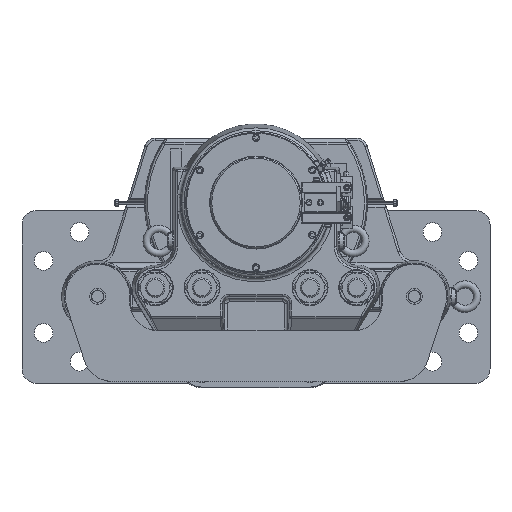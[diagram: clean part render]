
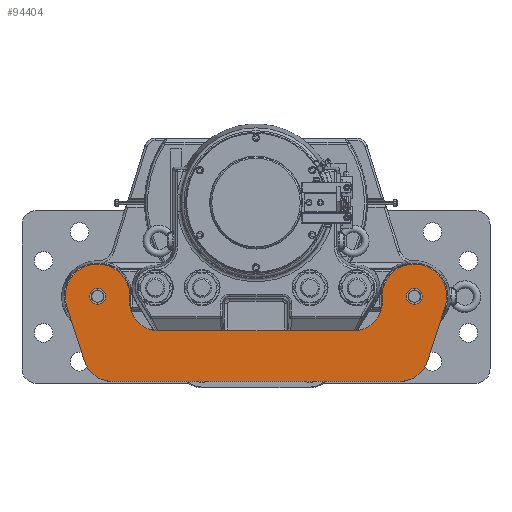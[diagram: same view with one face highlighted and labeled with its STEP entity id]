
A CAD part, top view. The second image highlights one B-rep face of the part: STEP entity #94404.
In plain terms, the highlighted planar face has unit normal (0, 0, 1).
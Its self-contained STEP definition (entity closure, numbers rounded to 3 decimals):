
#35621=CARTESIAN_POINT('',(-189.623,-128.,375.));
#35622=DIRECTION('',(0.,0.,-1.));
#35623=DIRECTION('',(0.996,0.094,0.));
#35624=AXIS2_PLACEMENT_3D('',#35621,#35622,#35623);
#35629=DIRECTION('',(0.308,0.951,0.));
#35630=VECTOR('',#35629,80.368);
#35631=CARTESIAN_POINT('',(-86.945,-210.322,375.));
#35632=LINE('',#35631,#35630);
#35636=CARTESIAN_POINT('',(-125.,-198.,375.));
#35637=DIRECTION('',(0.,0.,1.));
#35638=DIRECTION('',(0.,-1.,0.));
#35639=AXIS2_PLACEMENT_3D('',#35636,#35637,#35638);
#35644=DIRECTION('',(1.,0.,0.));
#35645=VECTOR('',#35644,400.);
#35646=CARTESIAN_POINT('',(-525.,-238.,375.));
#35647=LINE('',#35646,#35645);
#35651=CARTESIAN_POINT('',(-525.,-198.,375.));
#35652=DIRECTION('',(0.,0.,1.));
#35653=DIRECTION('',(-0.951,-0.308,0.));
#35654=AXIS2_PLACEMENT_3D('',#35651,#35652,#35653);
#35659=DIRECTION('',(0.308,-0.951,0.));
#35660=VECTOR('',#35659,80.368);
#35661=CARTESIAN_POINT('',(-587.812,-133.862,375.));
#35662=LINE('',#35661,#35660);
#35666=DIRECTION('',(-1.,0.,0.));
#35667=VECTOR('',#35666,270.755);
#35668=CARTESIAN_POINT('',(-189.623,-168.,375.));
#35669=LINE('',#35668,#35667);
#35673=CARTESIAN_POINT('',(-105.,-120.,375.));
#35674=DIRECTION('',(0.,0.,1.));
#35675=DIRECTION('',(0.951,-0.308,0.));
#35676=AXIS2_PLACEMENT_3D('',#35673,#35674,#35675);
#35731=CARTESIAN_POINT('',(-545.,-120.,375.));
#35732=DIRECTION('',(0.,0.,1.));
#35733=DIRECTION('',(0.996,-0.094,0.));
#35734=AXIS2_PLACEMENT_3D('',#35731,#35732,#35733);
#35776=CARTESIAN_POINT('',(-460.377,-128.,375.));
#35777=DIRECTION('',(0.,0.,-1.));
#35778=DIRECTION('',(0.,-1.,0.));
#35779=AXIS2_PLACEMENT_3D('',#35776,#35777,#35778);
#35791=CARTESIAN_POINT('',(-105.,-120.,375.));
#35792=DIRECTION('',(0.,0.,-1.));
#35793=DIRECTION('',(-1.,0.,0.));
#35794=AXIS2_PLACEMENT_3D('',#35791,#35792,#35793);
#35806=CARTESIAN_POINT('',(-105.,-120.,375.));
#35807=DIRECTION('',(0.,0.,-1.));
#35808=DIRECTION('',(1.,0.,0.));
#35809=AXIS2_PLACEMENT_3D('',#35806,#35807,#35808);
#36125=CARTESIAN_POINT('',(-545.,-120.,375.));
#36126=DIRECTION('',(0.,0.,1.));
#36127=DIRECTION('',(-1.,0.,0.));
#36128=AXIS2_PLACEMENT_3D('',#36125,#36126,#36127);
#36140=CARTESIAN_POINT('',(-545.,-120.,375.));
#36141=DIRECTION('',(0.,0.,1.));
#36142=DIRECTION('',(1.,0.,0.));
#36143=AXIS2_PLACEMENT_3D('',#36140,#36141,#36142);
#54041=CARTESIAN_POINT('',(-189.623,-168.,375.));
#54042=CARTESIAN_POINT('',(-460.377,-168.,375.));
#54043=VERTEX_POINT('',#54041);
#54044=VERTEX_POINT('',#54042);
#54049=CARTESIAN_POINT('',(-149.8,-124.235,375.));
#54050=VERTEX_POINT('',#54049);
#54059=CARTESIAN_POINT('',(-587.812,-133.862,375.));
#54060=CARTESIAN_POINT('',(-563.055,-210.322,375.));
#54061=VERTEX_POINT('',#54059);
#54062=VERTEX_POINT('',#54060);
#54063=CARTESIAN_POINT('',(-125.,-238.,375.));
#54065=VERTEX_POINT('',#54063);
#54067=CARTESIAN_POINT('',(-500.2,-124.235,375.));
#54069=VERTEX_POINT('',#54067);
#54071=CARTESIAN_POINT('',(-525.,-238.,375.));
#54072=VERTEX_POINT('',#54071);
#54077=CARTESIAN_POINT('',(-86.945,-210.322,375.));
#54078=VERTEX_POINT('',#54077);
#54079=CARTESIAN_POINT('',(-62.188,-133.862,375.));
#54080=VERTEX_POINT('',#54079);
#55613=CARTESIAN_POINT('',(-116.,-120.,375.));
#55614=CARTESIAN_POINT('',(-94.,-120.,375.));
#55615=VERTEX_POINT('',#55613);
#55616=VERTEX_POINT('',#55614);
#55617=CARTESIAN_POINT('',(-556.,-120.,375.));
#55618=CARTESIAN_POINT('',(-534.,-120.,375.));
#55619=VERTEX_POINT('',#55617);
#55620=VERTEX_POINT('',#55618);
#94366=CARTESIAN_POINT('',(-189.623,-128.,375.));
#94367=DIRECTION('',(0.,0.,-1.));
#94368=DIRECTION('',(1.,0.,0.));
#94369=AXIS2_PLACEMENT_3D('',#94366,#94367,#94368);
#94370=PLANE('',#94369);
#94371=ORIENTED_EDGE('',*,*,#94356,.F.);
#94373=ORIENTED_EDGE('',*,*,#94372,.F.);
#94375=ORIENTED_EDGE('',*,*,#94374,.F.);
#94377=ORIENTED_EDGE('',*,*,#94376,.F.);
#94379=ORIENTED_EDGE('',*,*,#94378,.F.);
#94381=ORIENTED_EDGE('',*,*,#94380,.F.);
#94383=ORIENTED_EDGE('',*,*,#94382,.F.);
#94385=ORIENTED_EDGE('',*,*,#94384,.F.);
#94387=ORIENTED_EDGE('',*,*,#94386,.F.);
#94389=ORIENTED_EDGE('',*,*,#94388,.F.);
#94390=EDGE_LOOP('',(#94371,#94373,#94375,#94377,#94379,#94381,#94383,#94385,
#94387,#94389));
#94391=FACE_OUTER_BOUND('',#94390,.F.);
#94393=ORIENTED_EDGE('',*,*,#94392,.F.);
#94395=ORIENTED_EDGE('',*,*,#94394,.F.);
#94396=EDGE_LOOP('',(#94393,#94395));
#94397=FACE_BOUND('',#94396,.F.);
#94399=ORIENTED_EDGE('',*,*,#94398,.T.);
#94401=ORIENTED_EDGE('',*,*,#94400,.T.);
#94402=EDGE_LOOP('',(#94399,#94401));
#94403=FACE_BOUND('',#94402,.F.);
#94404=ADVANCED_FACE('',(#94391,#94397,#94403),#94370,.F.);
#35625=CIRCLE('',#35624,40.);
#35640=CIRCLE('',#35639,40.);
#35655=CIRCLE('',#35654,40.);
#35677=CIRCLE('',#35676,45.);
#35735=CIRCLE('',#35734,45.);
#35780=CIRCLE('',#35779,40.);
#35795=CIRCLE('',#35794,11.);
#35810=CIRCLE('',#35809,11.);
#36129=CIRCLE('',#36128,11.);
#36144=CIRCLE('',#36143,11.);
#94356=EDGE_CURVE('',#54050,#54043,#35625,.T.);
#94372=EDGE_CURVE('',#54080,#54050,#35677,.T.);
#94374=EDGE_CURVE('',#54078,#54080,#35632,.T.);
#94376=EDGE_CURVE('',#54065,#54078,#35640,.T.);
#94378=EDGE_CURVE('',#54072,#54065,#35647,.T.);
#94380=EDGE_CURVE('',#54062,#54072,#35655,.T.);
#94382=EDGE_CURVE('',#54061,#54062,#35662,.T.);
#94384=EDGE_CURVE('',#54069,#54061,#35735,.T.);
#94386=EDGE_CURVE('',#54044,#54069,#35780,.T.);
#94388=EDGE_CURVE('',#54043,#54044,#35669,.T.);
#94392=EDGE_CURVE('',#55615,#55616,#35795,.T.);
#94394=EDGE_CURVE('',#55616,#55615,#35810,.T.);
#94398=EDGE_CURVE('',#55619,#55620,#36129,.T.);
#94400=EDGE_CURVE('',#55620,#55619,#36144,.T.);
